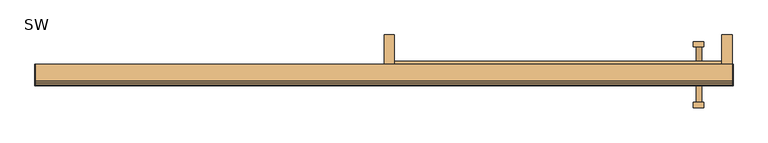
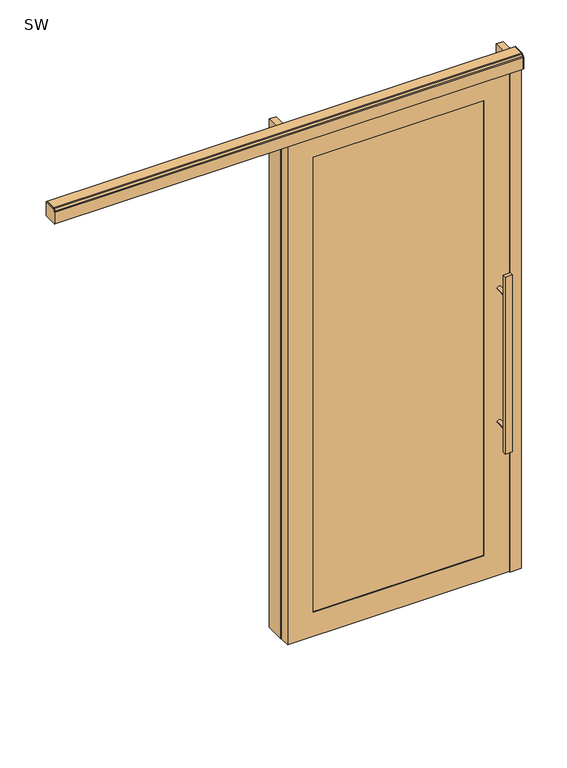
"""IFC4 building model written with IfcOpenShell, lengths in millimetres: door geometry, Mobiliário_Mobiliário de Escritório_Porta Simples de Correr com Vidro Duplo e Persiana - SW_Marelli : SW."""

from ifc_helpers import new_model, si_unit, point, frame, frame_2d, origin, origin_with_axes, place, context, project, spatial, polyline, circle_curve, trimmed, segment, composite_curve, outline, extrude, source, transform, mapped, element, save


def sw_5507271e(model_context):
    return source(origin(), model_context, "Body", "SweptSolid", [
        extrude(outline(polyline([(-500.0, -15.0), (-470.0, -15.0), (-470.0, -100.0), (-500.0, -100.0), (-500.0, -15.0)])), origin_with_axes(), (0.0, 0.0, 1.0), 2300.0),
        extrude(outline(polyline([(500.0, -15.0), (500.0, -100.0), (470.0, -100.0), (470.0, -15.0), (500.0, -15.0)])), origin_with_axes(), (0.0, 0.0, 1.0), 2300.0),
        extrude(outline(polyline([(500.0, -100.0), (500.0, -150.0), (450.0, -150.0), (450.0, -100.0), (500.0, -100.0)])), origin_with_axes(), (0.0, 0.0, 1.0), 2280.0),
        extrude(outline(polyline([(388.9, -223.7), (388.9, -208.7), (418.9, -208.7), (418.9, -223.7), (388.9, -223.7)])), frame((0.0, 0.0, 600.0), z_axis=(0.0, 0.0, 1.0), x_axis=(1.0, 0.0, 0.0)), (0.0, 0.0, 1.0), 800.0),
        extrude(outline(composite_curve([segment(trimmed(circle_curve(frame_2d((698.0, 405.0278633)), 8.0), [point((698.0, 397.0278633))], [point((698.0, 413.0278633))], False, "CARTESIAN"), True, "CONTINUOUS"), segment(trimmed(circle_curve(frame_2d((698.0, 405.0278633)), 8.0), [point((698.0, 413.0278633))], [point((698.0, 397.0278633))], False, "CARTESIAN"), True, "CONTINUOUS")], self_intersect=False)), frame((0.0, -208.7, 0.0), z_axis=(0.0, 1.0, 0.0), x_axis=(0.0, 0.0, 1.0)), (0.0, 0.0, 1.0), 58.7),
        extrude(outline(composite_curve([segment(trimmed(circle_curve(frame_2d((1302.0, 405.0278633)), 8.0), [point((1302.0, 397.0278633))], [point((1302.0, 413.0278633))], False, "CARTESIAN"), True, "CONTINUOUS"), segment(trimmed(circle_curve(frame_2d((1302.0, 405.0278633)), 8.0), [point((1302.0, 413.0278633))], [point((1302.0, 397.0278633))], False, "CARTESIAN"), True, "CONTINUOUS")], self_intersect=False)), frame((0.0, -208.7, 0.0), z_axis=(0.0, 1.0, 0.0), x_axis=(0.0, 0.0, 1.0)), (0.0, 0.0, 1.0), 58.7),
        extrude(outline(polyline([(388.9, -34.3), (418.9, -34.3), (418.9, -49.3), (388.9, -49.3), (388.9, -34.3)])), frame((0.0, 0.0, 600.0), z_axis=(0.0, 0.0, 1.0), x_axis=(1.0, 0.0, 0.0)), (0.0, 0.0, 1.0), 800.0),
        extrude(outline(composite_curve([segment(trimmed(circle_curve(frame_2d((698.0, 405.0278633)), 8.0), [point((698.0, 397.0278633))], [point((698.0, 413.0278633))], False, "CARTESIAN"), True, "CONTINUOUS"), segment(trimmed(circle_curve(frame_2d((698.0, 405.0278633)), 8.0), [point((698.0, 413.0278633))], [point((698.0, 397.0278633))], False, "CARTESIAN"), True, "CONTINUOUS")], self_intersect=False)), frame((0.0, -108.0, 0.0), z_axis=(0.0, 1.0, 0.0), x_axis=(0.0, 0.0, 1.0)), (0.0, 0.0, 1.0), 58.7),
        extrude(outline(composite_curve([segment(trimmed(circle_curve(frame_2d((1302.0, 405.0278633)), 8.0), [point((1302.0, 397.0278633))], [point((1302.0, 413.0278633))], False, "CARTESIAN"), True, "CONTINUOUS"), segment(trimmed(circle_curve(frame_2d((1302.0, 405.0278633)), 8.0), [point((1302.0, 413.0278633))], [point((1302.0, 397.0278633))], False, "CARTESIAN"), True, "CONTINUOUS")], self_intersect=False)), frame((0.0, -108.0, 0.0), z_axis=(0.0, 1.0, 0.0), x_axis=(0.0, 0.0, 1.0)), (0.0, 0.0, 1.0), 58.7),
        extrude(outline(polyline([(2280.0, -500.0), (3.0, -500.0), (3.0, 450.0), (2280.0, 450.0), (2280.0, -500.0)]), holes=[polyline([(2170.0, 340.0), (113.0, 340.0), (113.0, -390.0), (2170.0, -390.0), (2170.0, 340.0)])]), frame((0.0, -150.0, 0.0), z_axis=(0.0, 1.0, 0.0), x_axis=(0.0, 0.0, 1.0)), (0.0, 0.0, 1.0), 42.0),
        extrude(outline(polyline([(340.0, -147.5), (-390.0, -147.5), (-390.0, -141.5), (340.0, -141.5), (340.0, -147.5)])), frame((0.0, 0.0, 113.0), z_axis=(0.0, 0.0, 1.0), x_axis=(1.0, 0.0, 0.0)), (0.0, 0.0, 1.0), 2057.0),
        extrude(outline(polyline([(-390.0, -110.5), (340.0, -110.5), (340.0, -116.5), (-390.0, -116.5), (-390.0, -110.5)])), frame((0.0, 0.0, 113.0), z_axis=(0.0, 0.0, 1.0), x_axis=(1.0, 0.0, 0.0)), (0.0, 0.0, 1.0), 2057.0),
        extrude(outline(polyline([(340.0, -122.1216022), (340.0, -138.1216022), (-390.0, -138.1216022), (-390.0, -122.1216022), (340.0, -122.1216022)])), frame((0.0, 0.0, 1191.2), z_axis=(0.0, 0.0, 1.0), x_axis=(1.0, 0.0, 0.0)), (0.0, 0.0, 1.0), 0.8),
        extrude(outline(polyline([(340.0, -122.1216022), (340.0, -138.1216022), (-390.0, -138.1216022), (-390.0, -122.1216022), (340.0, -122.1216022)])), frame((0.0, 0.0, 1161.2), z_axis=(0.0, 0.0, 1.0), x_axis=(1.0, 0.0, 0.0)), (0.0, 0.0, 1.0), 0.8),
        extrude(outline(polyline([(340.0, -122.1216022), (340.0, -138.1216022), (-390.0, -138.1216022), (-390.0, -122.1216022), (340.0, -122.1216022)])), frame((0.0, 0.0, 1131.2), z_axis=(0.0, 0.0, 1.0), x_axis=(1.0, 0.0, 0.0)), (0.0, 0.0, 1.0), 0.8),
        extrude(outline(polyline([(340.0, -122.1216022), (340.0, -138.1216022), (-390.0, -138.1216022), (-390.0, -122.1216022), (340.0, -122.1216022)])), frame((0.0, 0.0, 1101.2), z_axis=(0.0, 0.0, 1.0), x_axis=(1.0, 0.0, 0.0)), (0.0, 0.0, 1.0), 0.8),
        extrude(outline(polyline([(340.0, -122.1216022), (340.0, -138.1216022), (-390.0, -138.1216022), (-390.0, -122.1216022), (340.0, -122.1216022)])), frame((0.0, 0.0, 1071.2), z_axis=(0.0, 0.0, 1.0), x_axis=(1.0, 0.0, 0.0)), (0.0, 0.0, 1.0), 0.8),
        extrude(outline(polyline([(340.0, -122.1216022), (340.0, -138.1216022), (-390.0, -138.1216022), (-390.0, -122.1216022), (340.0, -122.1216022)])), frame((0.0, 0.0, 1041.2), z_axis=(0.0, 0.0, 1.0), x_axis=(1.0, 0.0, 0.0)), (0.0, 0.0, 1.0), 0.8),
        extrude(outline(polyline([(340.0, -122.1216022), (340.0, -138.1216022), (-390.0, -138.1216022), (-390.0, -122.1216022), (340.0, -122.1216022)])), frame((0.0, 0.0, 1011.2), z_axis=(0.0, 0.0, 1.0), x_axis=(1.0, 0.0, 0.0)), (0.0, 0.0, 1.0), 0.8),
        extrude(outline(polyline([(340.0, -122.1216022), (340.0, -138.1216022), (-390.0, -138.1216022), (-390.0, -122.1216022), (340.0, -122.1216022)])), frame((0.0, 0.0, 981.2), z_axis=(0.0, 0.0, 1.0), x_axis=(1.0, 0.0, 0.0)), (0.0, 0.0, 1.0), 0.8),
        extrude(outline(polyline([(340.0, -122.1216022), (340.0, -138.1216022), (-390.0, -138.1216022), (-390.0, -122.1216022), (340.0, -122.1216022)])), frame((0.0, 0.0, 891.2), z_axis=(0.0, 0.0, 1.0), x_axis=(1.0, 0.0, 0.0)), (0.0, 0.0, 1.0), 0.8),
        extrude(outline(polyline([(340.0, -122.1216022), (340.0, -138.1216022), (-390.0, -138.1216022), (-390.0, -122.1216022), (340.0, -122.1216022)])), frame((0.0, 0.0, 921.2), z_axis=(0.0, 0.0, 1.0), x_axis=(1.0, 0.0, 0.0)), (0.0, 0.0, 1.0), 0.8),
        extrude(outline(polyline([(340.0, -122.1216022), (340.0, -138.1216022), (-390.0, -138.1216022), (-390.0, -122.1216022), (340.0, -122.1216022)])), frame((0.0, 0.0, 951.2), z_axis=(0.0, 0.0, 1.0), x_axis=(1.0, 0.0, 0.0)), (0.0, 0.0, 1.0), 0.8),
        extrude(outline(polyline([(340.0, -122.1216022), (340.0, -138.1216022), (-390.0, -138.1216022), (-390.0, -122.1216022), (340.0, -122.1216022)])), frame((0.0, 0.0, 471.2), z_axis=(0.0, 0.0, 1.0), x_axis=(1.0, 0.0, 0.0)), (0.0, 0.0, 1.0), 0.8),
        extrude(outline(polyline([(340.0, -122.1216022), (340.0, -138.1216022), (-390.0, -138.1216022), (-390.0, -122.1216022), (340.0, -122.1216022)])), frame((0.0, 0.0, 501.2), z_axis=(0.0, 0.0, 1.0), x_axis=(1.0, 0.0, 0.0)), (0.0, 0.0, 1.0), 0.8),
        extrude(outline(polyline([(340.0, -122.1216022), (340.0, -138.1216022), (-390.0, -138.1216022), (-390.0, -122.1216022), (340.0, -122.1216022)])), frame((0.0, 0.0, 531.2), z_axis=(0.0, 0.0, 1.0), x_axis=(1.0, 0.0, 0.0)), (0.0, 0.0, 1.0), 0.8),
        extrude(outline(polyline([(340.0, -122.1216022), (340.0, -138.1216022), (-390.0, -138.1216022), (-390.0, -122.1216022), (340.0, -122.1216022)])), frame((0.0, 0.0, 561.2), z_axis=(0.0, 0.0, 1.0), x_axis=(1.0, 0.0, 0.0)), (0.0, 0.0, 1.0), 0.8),
        extrude(outline(polyline([(340.0, -122.1216022), (340.0, -138.1216022), (-390.0, -138.1216022), (-390.0, -122.1216022), (340.0, -122.1216022)])), frame((0.0, 0.0, 591.2), z_axis=(0.0, 0.0, 1.0), x_axis=(1.0, 0.0, 0.0)), (0.0, 0.0, 1.0), 0.8),
        extrude(outline(polyline([(340.0, -122.1216022), (340.0, -138.1216022), (-390.0, -138.1216022), (-390.0, -122.1216022), (340.0, -122.1216022)])), frame((0.0, 0.0, 621.2), z_axis=(0.0, 0.0, 1.0), x_axis=(1.0, 0.0, 0.0)), (0.0, 0.0, 1.0), 0.8),
        extrude(outline(polyline([(340.0, -122.1216022), (340.0, -138.1216022), (-390.0, -138.1216022), (-390.0, -122.1216022), (340.0, -122.1216022)])), frame((0.0, 0.0, 651.2), z_axis=(0.0, 0.0, 1.0), x_axis=(1.0, 0.0, 0.0)), (0.0, 0.0, 1.0), 0.8),
        extrude(outline(polyline([(340.0, -122.1216022), (340.0, -138.1216022), (-390.0, -138.1216022), (-390.0, -122.1216022), (340.0, -122.1216022)])), frame((0.0, 0.0, 681.2), z_axis=(0.0, 0.0, 1.0), x_axis=(1.0, 0.0, 0.0)), (0.0, 0.0, 1.0), 0.8),
        extrude(outline(polyline([(340.0, -122.1216022), (340.0, -138.1216022), (-390.0, -138.1216022), (-390.0, -122.1216022), (340.0, -122.1216022)])), frame((0.0, 0.0, 711.2), z_axis=(0.0, 0.0, 1.0), x_axis=(1.0, 0.0, 0.0)), (0.0, 0.0, 1.0), 0.8),
        extrude(outline(polyline([(340.0, -122.1216022), (340.0, -138.1216022), (-390.0, -138.1216022), (-390.0, -122.1216022), (340.0, -122.1216022)])), frame((0.0, 0.0, 741.2), z_axis=(0.0, 0.0, 1.0), x_axis=(1.0, 0.0, 0.0)), (0.0, 0.0, 1.0), 0.8),
        extrude(outline(polyline([(340.0, -122.1216022), (340.0, -138.1216022), (-390.0, -138.1216022), (-390.0, -122.1216022), (340.0, -122.1216022)])), frame((0.0, 0.0, 771.2), z_axis=(0.0, 0.0, 1.0), x_axis=(1.0, 0.0, 0.0)), (0.0, 0.0, 1.0), 0.8),
        extrude(outline(polyline([(340.0, -122.1216022), (340.0, -138.1216022), (-390.0, -138.1216022), (-390.0, -122.1216022), (340.0, -122.1216022)])), frame((0.0, 0.0, 801.2), z_axis=(0.0, 0.0, 1.0), x_axis=(1.0, 0.0, 0.0)), (0.0, 0.0, 1.0), 0.8),
        extrude(outline(polyline([(340.0, -122.1216022), (340.0, -138.1216022), (-390.0, -138.1216022), (-390.0, -122.1216022), (340.0, -122.1216022)])), frame((0.0, 0.0, 861.2), z_axis=(0.0, 0.0, 1.0), x_axis=(1.0, 0.0, 0.0)), (0.0, 0.0, 1.0), 0.8),
        extrude(outline(polyline([(340.0, -122.1216022), (340.0, -138.1216022), (-390.0, -138.1216022), (-390.0, -122.1216022), (340.0, -122.1216022)])), frame((0.0, 0.0, 831.2), z_axis=(0.0, 0.0, 1.0), x_axis=(1.0, 0.0, 0.0)), (0.0, 0.0, 1.0), 0.8),
        extrude(outline(polyline([(340.0, -122.1216022), (340.0, -138.1216022), (-390.0, -138.1216022), (-390.0, -122.1216022), (340.0, -122.1216022)])), frame((0.0, 0.0, 441.2), z_axis=(0.0, 0.0, 1.0), x_axis=(1.0, 0.0, 0.0)), (0.0, 0.0, 1.0), 0.8),
        extrude(outline(polyline([(340.0, -122.1216022), (340.0, -138.1216022), (-390.0, -138.1216022), (-390.0, -122.1216022), (340.0, -122.1216022)])), frame((0.0, 0.0, 411.2), z_axis=(0.0, 0.0, 1.0), x_axis=(1.0, 0.0, 0.0)), (0.0, 0.0, 1.0), 0.8),
        extrude(outline(polyline([(340.0, -122.1216022), (340.0, -138.1216022), (-390.0, -138.1216022), (-390.0, -122.1216022), (340.0, -122.1216022)])), frame((0.0, 0.0, 381.2), z_axis=(0.0, 0.0, 1.0), x_axis=(1.0, 0.0, 0.0)), (0.0, 0.0, 1.0), 0.8),
        extrude(outline(polyline([(340.0, -122.1216022), (340.0, -138.1216022), (-390.0, -138.1216022), (-390.0, -122.1216022), (340.0, -122.1216022)])), frame((0.0, 0.0, 351.2), z_axis=(0.0, 0.0, 1.0), x_axis=(1.0, 0.0, 0.0)), (0.0, 0.0, 1.0), 0.8),
        extrude(outline(polyline([(340.0, -122.1216022), (340.0, -138.1216022), (-390.0, -138.1216022), (-390.0, -122.1216022), (340.0, -122.1216022)])), frame((0.0, 0.0, 321.2), z_axis=(0.0, 0.0, 1.0), x_axis=(1.0, 0.0, 0.0)), (0.0, 0.0, 1.0), 0.8),
        extrude(outline(polyline([(340.0, -122.1216022), (340.0, -138.1216022), (-390.0, -138.1216022), (-390.0, -122.1216022), (340.0, -122.1216022)])), frame((0.0, 0.0, 291.2), z_axis=(0.0, 0.0, 1.0), x_axis=(1.0, 0.0, 0.0)), (0.0, 0.0, 1.0), 0.8),
        extrude(outline(polyline([(340.0, -122.1216022), (340.0, -138.1216022), (-390.0, -138.1216022), (-390.0, -122.1216022), (340.0, -122.1216022)])), frame((0.0, 0.0, 261.2), z_axis=(0.0, 0.0, 1.0), x_axis=(1.0, 0.0, 0.0)), (0.0, 0.0, 1.0), 0.8),
        extrude(outline(polyline([(340.0, -122.1216022), (340.0, -138.1216022), (-390.0, -138.1216022), (-390.0, -122.1216022), (340.0, -122.1216022)])), frame((0.0, 0.0, 231.2), z_axis=(0.0, 0.0, 1.0), x_axis=(1.0, 0.0, 0.0)), (0.0, 0.0, 1.0), 0.8),
        extrude(outline(polyline([(340.0, -122.1216022), (340.0, -138.1216022), (-390.0, -138.1216022), (-390.0, -122.1216022), (340.0, -122.1216022)])), frame((0.0, 0.0, 141.2), z_axis=(0.0, 0.0, 1.0), x_axis=(1.0, 0.0, 0.0)), (0.0, 0.0, 1.0), 0.8),
        extrude(outline(polyline([(340.0, -122.1216022), (340.0, -138.1216022), (-390.0, -138.1216022), (-390.0, -122.1216022), (340.0, -122.1216022)])), frame((0.0, 0.0, 171.2), z_axis=(0.0, 0.0, 1.0), x_axis=(1.0, 0.0, 0.0)), (0.0, 0.0, 1.0), 0.8),
        extrude(outline(polyline([(340.0, -122.1216022), (340.0, -138.1216022), (-390.0, -138.1216022), (-390.0, -122.1216022), (340.0, -122.1216022)])), frame((0.0, 0.0, 201.2), z_axis=(0.0, 0.0, 1.0), x_axis=(1.0, 0.0, 0.0)), (0.0, 0.0, 1.0), 0.8),
        extrude(outline(polyline([(340.0, -122.1216022), (340.0, -138.1216022), (-390.0, -138.1216022), (-390.0, -122.1216022), (340.0, -122.1216022)])), frame((0.0, 0.0, 2121.2), z_axis=(0.0, 0.0, 1.0), x_axis=(1.0, 0.0, 0.0)), (0.0, 0.0, 1.0), 0.8),
        extrude(outline(polyline([(340.0, -122.1216022), (340.0, -138.1216022), (-390.0, -138.1216022), (-390.0, -122.1216022), (340.0, -122.1216022)])), frame((0.0, 0.0, 2091.2), z_axis=(0.0, 0.0, 1.0), x_axis=(1.0, 0.0, 0.0)), (0.0, 0.0, 1.0), 0.8),
        extrude(outline(polyline([(340.0, -122.1216022), (340.0, -138.1216022), (-390.0, -138.1216022), (-390.0, -122.1216022), (340.0, -122.1216022)])), frame((0.0, 0.0, 2061.2), z_axis=(0.0, 0.0, 1.0), x_axis=(1.0, 0.0, 0.0)), (0.0, 0.0, 1.0), 0.8),
        extrude(outline(polyline([(340.0, -122.1216022), (340.0, -138.1216022), (-390.0, -138.1216022), (-390.0, -122.1216022), (340.0, -122.1216022)])), frame((0.0, 0.0, 2031.2), z_axis=(0.0, 0.0, 1.0), x_axis=(1.0, 0.0, 0.0)), (0.0, 0.0, 1.0), 0.8),
        extrude(outline(polyline([(340.0, -122.1216022), (340.0, -138.1216022), (-390.0, -138.1216022), (-390.0, -122.1216022), (340.0, -122.1216022)])), frame((0.0, 0.0, 2001.2), z_axis=(0.0, 0.0, 1.0), x_axis=(1.0, 0.0, 0.0)), (0.0, 0.0, 1.0), 0.8),
        extrude(outline(polyline([(340.0, -122.1216022), (340.0, -138.1216022), (-390.0, -138.1216022), (-390.0, -122.1216022), (340.0, -122.1216022)])), frame((0.0, 0.0, 1971.2), z_axis=(0.0, 0.0, 1.0), x_axis=(1.0, 0.0, 0.0)), (0.0, 0.0, 1.0), 0.8),
        extrude(outline(polyline([(340.0, -122.1216022), (340.0, -138.1216022), (-390.0, -138.1216022), (-390.0, -122.1216022), (340.0, -122.1216022)])), frame((0.0, 0.0, 1941.2), z_axis=(0.0, 0.0, 1.0), x_axis=(1.0, 0.0, 0.0)), (0.0, 0.0, 1.0), 0.8),
        extrude(outline(polyline([(340.0, -122.1216022), (340.0, -138.1216022), (-390.0, -138.1216022), (-390.0, -122.1216022), (340.0, -122.1216022)])), frame((0.0, 0.0, 1911.2), z_axis=(0.0, 0.0, 1.0), x_axis=(1.0, 0.0, 0.0)), (0.0, 0.0, 1.0), 0.8),
        extrude(outline(polyline([(340.0, -122.1216022), (340.0, -138.1216022), (-390.0, -138.1216022), (-390.0, -122.1216022), (340.0, -122.1216022)])), frame((0.0, 0.0, 1881.2), z_axis=(0.0, 0.0, 1.0), x_axis=(1.0, 0.0, 0.0)), (0.0, 0.0, 1.0), 0.8),
        extrude(outline(polyline([(340.0, -122.1216022), (340.0, -138.1216022), (-390.0, -138.1216022), (-390.0, -122.1216022), (340.0, -122.1216022)])), frame((0.0, 0.0, 1851.2), z_axis=(0.0, 0.0, 1.0), x_axis=(1.0, 0.0, 0.0)), (0.0, 0.0, 1.0), 0.8),
        extrude(outline(polyline([(340.0, -122.1216022), (340.0, -138.1216022), (-390.0, -138.1216022), (-390.0, -122.1216022), (340.0, -122.1216022)])), frame((0.0, 0.0, 1821.2), z_axis=(0.0, 0.0, 1.0), x_axis=(1.0, 0.0, 0.0)), (0.0, 0.0, 1.0), 0.8),
        extrude(outline(polyline([(340.0, -122.1216022), (340.0, -138.1216022), (-390.0, -138.1216022), (-390.0, -122.1216022), (340.0, -122.1216022)])), frame((0.0, 0.0, 1791.2), z_axis=(0.0, 0.0, 1.0), x_axis=(1.0, 0.0, 0.0)), (0.0, 0.0, 1.0), 0.8),
        extrude(outline(polyline([(340.0, -122.1216022), (340.0, -138.1216022), (-390.0, -138.1216022), (-390.0, -122.1216022), (340.0, -122.1216022)])), frame((0.0, 0.0, 1761.2), z_axis=(0.0, 0.0, 1.0), x_axis=(1.0, 0.0, 0.0)), (0.0, 0.0, 1.0), 0.8),
        extrude(outline(polyline([(340.0, -122.1216022), (340.0, -138.1216022), (-390.0, -138.1216022), (-390.0, -122.1216022), (340.0, -122.1216022)])), frame((0.0, 0.0, 1731.2), z_axis=(0.0, 0.0, 1.0), x_axis=(1.0, 0.0, 0.0)), (0.0, 0.0, 1.0), 0.8),
        extrude(outline(polyline([(340.0, -122.1216022), (340.0, -138.1216022), (-390.0, -138.1216022), (-390.0, -122.1216022), (340.0, -122.1216022)])), frame((0.0, 0.0, 1701.2), z_axis=(0.0, 0.0, 1.0), x_axis=(1.0, 0.0, 0.0)), (0.0, 0.0, 1.0), 0.8),
        extrude(outline(polyline([(340.0, -122.1216022), (340.0, -138.1216022), (-390.0, -138.1216022), (-390.0, -122.1216022), (340.0, -122.1216022)])), frame((0.0, 0.0, 1671.2), z_axis=(0.0, 0.0, 1.0), x_axis=(1.0, 0.0, 0.0)), (0.0, 0.0, 1.0), 0.8),
        extrude(outline(polyline([(340.0, -122.1216022), (340.0, -138.1216022), (-390.0, -138.1216022), (-390.0, -122.1216022), (340.0, -122.1216022)])), frame((0.0, 0.0, 1641.2), z_axis=(0.0, 0.0, 1.0), x_axis=(1.0, 0.0, 0.0)), (0.0, 0.0, 1.0), 0.8),
        extrude(outline(polyline([(340.0, -122.1216022), (340.0, -138.1216022), (-390.0, -138.1216022), (-390.0, -122.1216022), (340.0, -122.1216022)])), frame((0.0, 0.0, 1611.2), z_axis=(0.0, 0.0, 1.0), x_axis=(1.0, 0.0, 0.0)), (0.0, 0.0, 1.0), 0.8),
        extrude(outline(polyline([(340.0, -122.1216022), (340.0, -138.1216022), (-390.0, -138.1216022), (-390.0, -122.1216022), (340.0, -122.1216022)])), frame((0.0, 0.0, 1581.2), z_axis=(0.0, 0.0, 1.0), x_axis=(1.0, 0.0, 0.0)), (0.0, 0.0, 1.0), 0.8),
        extrude(outline(polyline([(340.0, -122.1216022), (340.0, -138.1216022), (-390.0, -138.1216022), (-390.0, -122.1216022), (340.0, -122.1216022)])), frame((0.0, 0.0, 1551.2), z_axis=(0.0, 0.0, 1.0), x_axis=(1.0, 0.0, 0.0)), (0.0, 0.0, 1.0), 0.8),
        extrude(outline(polyline([(340.0, -122.1216022), (340.0, -138.1216022), (-390.0, -138.1216022), (-390.0, -122.1216022), (340.0, -122.1216022)])), frame((0.0, 0.0, 1521.2), z_axis=(0.0, 0.0, 1.0), x_axis=(1.0, 0.0, 0.0)), (0.0, 0.0, 1.0), 0.8),
        extrude(outline(polyline([(340.0, -122.1216022), (340.0, -138.1216022), (-390.0, -138.1216022), (-390.0, -122.1216022), (340.0, -122.1216022)])), frame((0.0, 0.0, 1491.2), z_axis=(0.0, 0.0, 1.0), x_axis=(1.0, 0.0, 0.0)), (0.0, 0.0, 1.0), 0.8),
        extrude(outline(polyline([(340.0, -122.1216022), (340.0, -138.1216022), (-390.0, -138.1216022), (-390.0, -122.1216022), (340.0, -122.1216022)])), frame((0.0, 0.0, 1461.2), z_axis=(0.0, 0.0, 1.0), x_axis=(1.0, 0.0, 0.0)), (0.0, 0.0, 1.0), 0.8),
        extrude(outline(polyline([(340.0, -122.1216022), (340.0, -138.1216022), (-390.0, -138.1216022), (-390.0, -122.1216022), (340.0, -122.1216022)])), frame((0.0, 0.0, 1431.2), z_axis=(0.0, 0.0, 1.0), x_axis=(1.0, 0.0, 0.0)), (0.0, 0.0, 1.0), 0.8),
        extrude(outline(polyline([(340.0, -122.1216022), (340.0, -138.1216022), (-390.0, -138.1216022), (-390.0, -122.1216022), (340.0, -122.1216022)])), frame((0.0, 0.0, 1401.2), z_axis=(0.0, 0.0, 1.0), x_axis=(1.0, 0.0, 0.0)), (0.0, 0.0, 1.0), 0.8),
        extrude(outline(polyline([(340.0, -122.1216022), (340.0, -138.1216022), (-390.0, -138.1216022), (-390.0, -122.1216022), (340.0, -122.1216022)])), frame((0.0, 0.0, 1371.2), z_axis=(0.0, 0.0, 1.0), x_axis=(1.0, 0.0, 0.0)), (0.0, 0.0, 1.0), 0.8),
        extrude(outline(polyline([(340.0, -122.1216022), (340.0, -138.1216022), (-390.0, -138.1216022), (-390.0, -122.1216022), (340.0, -122.1216022)])), frame((0.0, 0.0, 1341.2), z_axis=(0.0, 0.0, 1.0), x_axis=(1.0, 0.0, 0.0)), (0.0, 0.0, 1.0), 0.8),
        extrude(outline(polyline([(340.0, -122.1216022), (340.0, -138.1216022), (-390.0, -138.1216022), (-390.0, -122.1216022), (340.0, -122.1216022)])), frame((0.0, 0.0, 1311.2), z_axis=(0.0, 0.0, 1.0), x_axis=(1.0, 0.0, 0.0)), (0.0, 0.0, 1.0), 0.8),
        extrude(outline(polyline([(340.0, -122.1216022), (340.0, -138.1216022), (-390.0, -138.1216022), (-390.0, -122.1216022), (340.0, -122.1216022)])), frame((0.0, 0.0, 1281.2), z_axis=(0.0, 0.0, 1.0), x_axis=(1.0, 0.0, 0.0)), (0.0, 0.0, 1.0), 0.8),
        extrude(outline(polyline([(340.0, -122.1216022), (340.0, -138.1216022), (-390.0, -138.1216022), (-390.0, -122.1216022), (340.0, -122.1216022)])), frame((0.0, 0.0, 1251.2), z_axis=(0.0, 0.0, 1.0), x_axis=(1.0, 0.0, 0.0)), (0.0, 0.0, 1.0), 0.8),
        extrude(outline(polyline([(340.0, -122.1216022), (340.0, -138.1216022), (-390.0, -138.1216022), (-390.0, -122.1216022), (340.0, -122.1216022)])), frame((0.0, 0.0, 1221.2), z_axis=(0.0, 0.0, 1.0), x_axis=(1.0, 0.0, 0.0)), (0.0, 0.0, 1.0), 0.8),
        extrude(outline(polyline([(470.0, -90.0), (470.0, -100.0), (-470.0, -100.0), (-470.0, -90.0), (470.0, -90.0)])), frame((0.0, 0.0, 2270.0), z_axis=(0.0, 0.0, 1.0), x_axis=(1.0, 0.0, 0.0)), (0.0, 0.0, 1.0), 30.0),
        extrude(outline(composite_curve([segment(polyline([(-100.0, 2280.0), (-103.7, 2280.0), (-103.7, 2288.4), (-118.3, 2288.4), (-118.3, 2316.9), (-142.2, 2316.9), (-142.2, 2288.4), (-156.1, 2288.4), (-156.1, 2264.2), (-161.3, 2264.2), (-161.3, 2316.3833057)]), True, "CONTINUOUS"), segment(trimmed(circle_curve(frame_2d((-154.7488615, 2316.4864296)), 6.5519502), [point((-161.3, 2316.3833057))], [point((-159.3082964, 2321.1917036))], False, "CARTESIAN"), True, "CONTINUOUS"), segment(polyline([(-159.3082964, 2321.1917036), (-153.2917036, 2327.2082964)]), True, "CONTINUOUS"), segment(trimmed(circle_curve(frame_2d((-148.5864296, 2322.6488615)), 6.5519502), [point((-153.2917036, 2327.2082964))], [point((-148.4833057, 2329.2))], False, "CARTESIAN"), True, "CONTINUOUS"), segment(polyline([(-148.4833057, 2329.2), (-100.0, 2329.2), (-100.0, 2280.0)]), True, "CONTINUOUS")], self_intersect=False)), frame((-1500.0, 0.0, 0.0), z_axis=(1.0, 0.0, 0.0), x_axis=(0.0, 1.0, 0.0)), (0.0, 0.0, 1.0), 2000.0),
        extrude(outline(composite_curve([segment(polyline([(-100.0, 2264.2), (-161.3, 2264.2), (-161.3, 2316.3833057)]), True, "CONTINUOUS"), segment(trimmed(circle_curve(frame_2d((-154.7488615, 2316.4864296)), 6.5519502), [point((-161.3, 2316.3833057))], [point((-159.3082964, 2321.1917036))], False, "CARTESIAN"), True, "CONTINUOUS"), segment(polyline([(-159.3082964, 2321.1917036), (-153.2917036, 2327.2082964)]), True, "CONTINUOUS"), segment(trimmed(circle_curve(frame_2d((-148.5864296, 2322.6488615)), 6.5519502), [point((-153.2917036, 2327.2082964))], [point((-148.4833057, 2329.2))], False, "CARTESIAN"), True, "CONTINUOUS"), segment(polyline([(-148.4833057, 2329.2), (-100.0, 2329.2), (-100.0, 2264.2)]), True, "CONTINUOUS")], self_intersect=False)), frame((500.0, 0.0, 0.0), z_axis=(1.0, 0.0, 0.0), x_axis=(0.0, 1.0, 0.0)), (0.0, 0.0, 1.0), 3.0),
        extrude(outline(composite_curve([segment(polyline([(-100.0, 2264.2), (-161.3, 2264.2), (-161.3, 2316.3833057)]), True, "CONTINUOUS"), segment(trimmed(circle_curve(frame_2d((-154.7488615, 2316.4864296)), 6.5519502), [point((-161.3, 2316.3833057))], [point((-159.3082964, 2321.1917036))], False, "CARTESIAN"), True, "CONTINUOUS"), segment(polyline([(-159.3082964, 2321.1917036), (-153.2917036, 2327.2082964)]), True, "CONTINUOUS"), segment(trimmed(circle_curve(frame_2d((-148.5864296, 2322.6488615)), 6.5519502), [point((-153.2917036, 2327.2082964))], [point((-148.4833057, 2329.2))], False, "CARTESIAN"), True, "CONTINUOUS"), segment(polyline([(-148.4833057, 2329.2), (-100.0, 2329.2), (-100.0, 2264.2)]), True, "CONTINUOUS")], self_intersect=False)), frame((-1503.0, 0.0, 0.0), z_axis=(1.0, 0.0, 0.0), x_axis=(0.0, 1.0, 0.0)), (0.0, 0.0, 1.0), 3.0),
        extrude(outline(polyline([(340.0, -116.5), (340.0, -141.5), (-390.0, -141.5), (-390.0, -116.5), (340.0, -116.5)])), frame((0.0, 0.0, 2137.0), z_axis=(0.0, 0.0, 1.0), x_axis=(1.0, 0.0, 0.0)), (0.0, 0.0, 1.0), 25.0),
    ])


if __name__ == "__main__":
    model = new_model("IFC4")
    model_context = context("Model", 3, world=origin())
    ifc_project = project(units=[si_unit("LENGTHUNIT", "METRE", prefix="MILLI")], contexts=[model_context])
    site = spatial("IfcSite", under=ifc_project)
    building = spatial("IfcBuilding", under=site)
    placement = place(None, origin())
    sw_shape = sw_5507271e(model_context)
    element("IfcDoor", 1, ObjectType="Mobiliário_Mobiliário de Escritório_Porta Simples de Correr com Vidro Duplo e Persiana - SW_Marelli : SW", at=placement, inside=building, context=model_context, shape_type="MappedRepresentation", body=[
        mapped(sw_shape, transform((0.0, 0.0, 0.0), x_axis=(1.0, 0.0, 0.0), y_axis=(0.0, 1.0, 0.0), z_axis=(0.0, 0.0, 1.0))),
    ])
    save(model, "model.ifc")
